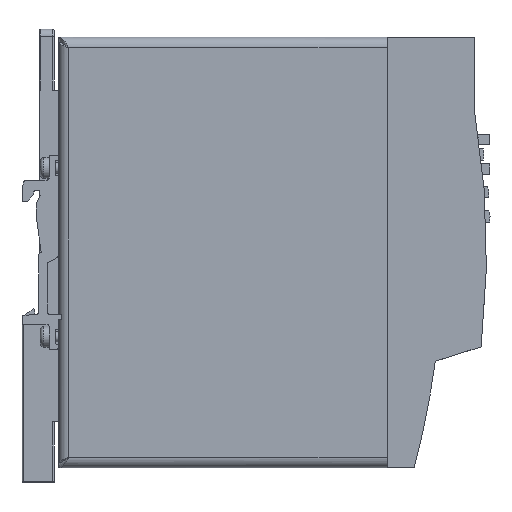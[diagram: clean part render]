
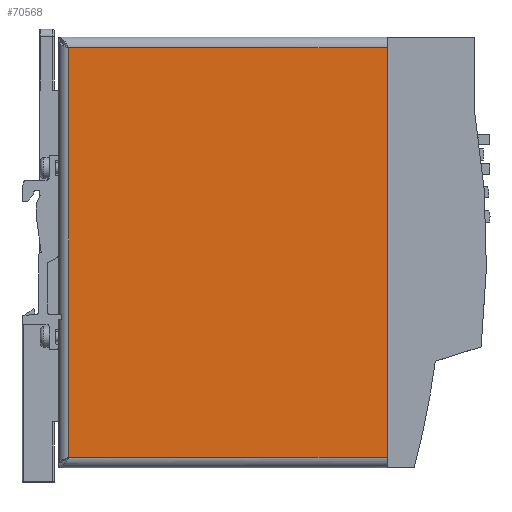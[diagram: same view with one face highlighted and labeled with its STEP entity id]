
A CAD part, left-side view. The second image highlights one B-rep face of the part: STEP entity #70568.
In plain terms, the highlighted planar face has unit normal (-1, 0, 0).
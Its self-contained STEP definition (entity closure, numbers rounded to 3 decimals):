
#3475=PLANE('',#74557);
#6375=FACE_OUTER_BOUND('',#10715,.T.);
#10715=EDGE_LOOP('',(#52304,#52305,#52306,#52307));
#17352=LINE('',#101879,#25445);
#17357=LINE('',#101933,#25450);
#17361=LINE('',#102010,#25454);
#17366=LINE('',#102049,#25459);
#25445=VECTOR('',#81955,10.);
#25450=VECTOR('',#81970,10.);
#25454=VECTOR('',#81980,10.);
#25459=VECTOR('',#81997,10.);
#34707=VERTEX_POINT('',#101876);
#34708=VERTEX_POINT('',#101878);
#34711=VERTEX_POINT('',#101932);
#34713=VERTEX_POINT('',#102009);
#41678=EDGE_CURVE('',#34708,#34707,#17352,.T.);
#41687=EDGE_CURVE('',#34711,#34708,#17357,.T.);
#41695=EDGE_CURVE('',#34713,#34711,#17361,.T.);
#41703=EDGE_CURVE('',#34713,#34707,#17366,.T.);
#52304=ORIENTED_EDGE('',*,*,#41678,.T.);
#52305=ORIENTED_EDGE('',*,*,#41703,.F.);
#52306=ORIENTED_EDGE('',*,*,#41695,.T.);
#52307=ORIENTED_EDGE('',*,*,#41687,.T.);
#70568=ADVANCED_FACE('',(#6375),#3475,.F.);
#74557=AXIS2_PLACEMENT_3D('',#102051,#82000,#82001);
#81955=DIRECTION('',(0.,-1.,0.));
#81970=DIRECTION('',(0.,0.,-1.));
#81980=DIRECTION('',(0.,1.,0.));
#81997=DIRECTION('',(0.,0.,-1.));
#82000=DIRECTION('center_axis',(1.,0.,0.));
#82001=DIRECTION('ref_axis',(0.,0.,-1.));
#101876=CARTESIAN_POINT('',(-26.,-94.6,-59.));
#101878=CARTESIAN_POINT('',(-26.,-3.,-59.));
#101879=CARTESIAN_POINT('',(-26.,-25.15,-59.));
#101932=CARTESIAN_POINT('',(-26.,-3.,59.));
#101933=CARTESIAN_POINT('',(-26.,-3.,29.5));
#102009=CARTESIAN_POINT('',(-26.,-94.6,59.));
#102010=CARTESIAN_POINT('',(-26.,-70.95,59.));
#102049=CARTESIAN_POINT('',(-26.,-94.6,-62.));
#102051=CARTESIAN_POINT('Origin',(-26.,-47.3,0.));
